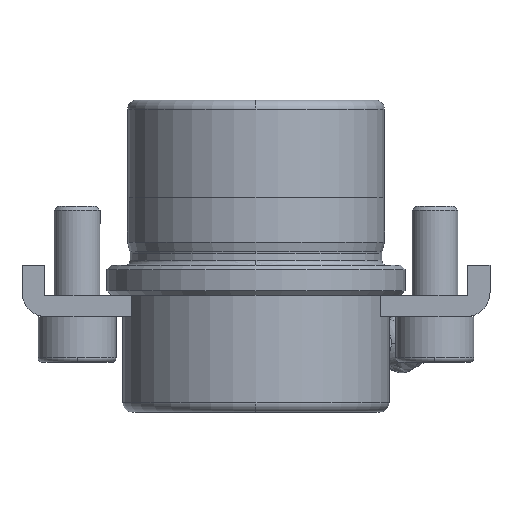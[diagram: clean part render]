
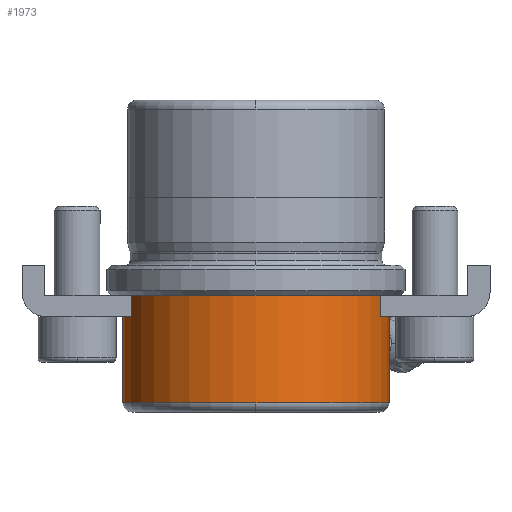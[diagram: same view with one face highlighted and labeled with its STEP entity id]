
A CAD part, front view. The second image highlights one B-rep face of the part: STEP entity #1973.
In plain terms, the highlighted cylindrical face has radius 14.5 mm (diameter 29 mm), a partial arc.
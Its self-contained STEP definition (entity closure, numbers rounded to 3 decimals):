
#401=CARTESIAN_POINT('',(0.,-14.5,-15.));
#402=VERTEX_POINT('',#401);
#410=CARTESIAN_POINT('',(-14.5,0.,-15.0));
#411=VERTEX_POINT('',#410);
#412=CARTESIAN_POINT('',(0.0,0.,-15.0));
#413=DIRECTION('',(0.0,0.0,-1.0));
#414=DIRECTION('',(1.0,0.0,0.0));
#415=AXIS2_PLACEMENT_3D('',#412,#413,#414);
#416=CIRCLE('',#415,14.5);
#417=EDGE_CURVE('',#402,#411,#416,.T.);
#434=CARTESIAN_POINT('',(14.5,0.,-15.0));
#435=VERTEX_POINT('',#434);
#436=CARTESIAN_POINT('',(14.5,0.,-3.3));
#437=VERTEX_POINT('',#436);
#438=CARTESIAN_POINT('',(14.5,0.,-15.0));
#439=DIRECTION('',(0.0,0.0,1.0));
#440=VECTOR('',#439,11.7);
#441=LINE('',#438,#440);
#442=EDGE_CURVE('',#435,#437,#441,.T.);
#452=CARTESIAN_POINT('',(-14.5,0.,-3.3));
#453=VERTEX_POINT('',#452);
#454=CARTESIAN_POINT('',(-14.5,0.,-15.0));
#455=DIRECTION('',(0.0,0.0,1.0));
#456=VECTOR('',#455,11.7);
#457=LINE('',#454,#456);
#458=EDGE_CURVE('',#411,#453,#457,.T.);
#1944=CARTESIAN_POINT('',(0.0,0.,-3.3));
#1945=DIRECTION('',(0.0,0.0,-1.0));
#1946=DIRECTION('',(1.0,0.0,0.0));
#1947=AXIS2_PLACEMENT_3D('',#1944,#1945,#1946);
#1948=CIRCLE('',#1947,14.5);
#1949=EDGE_CURVE('',#437,#453,#1948,.T.);
#1955=CARTESIAN_POINT('',(0.0,0.,-9.15));
#1956=DIRECTION('',(0.0,0.,-1.0));
#1957=DIRECTION('',(1.0,0.0,0.0));
#1958=AXIS2_PLACEMENT_3D('',#1955,#1956,#1957);
#1959=CYLINDRICAL_SURFACE('',#1958,14.5);
#1960=ORIENTED_EDGE('',*,*,#442,.T.);
#1961=ORIENTED_EDGE('',*,*,#1949,.T.);
#1962=ORIENTED_EDGE('',*,*,#458,.F.);
#1963=ORIENTED_EDGE('',*,*,#417,.F.);
#1964=CARTESIAN_POINT('',(0.0,0.,-15.0));
#1965=DIRECTION('',(0.0,0.0,-1.0));
#1966=DIRECTION('',(1.0,0.0,0.0));
#1967=AXIS2_PLACEMENT_3D('',#1964,#1965,#1966);
#1968=CIRCLE('',#1967,14.5);
#1969=EDGE_CURVE('',#435,#402,#1968,.T.);
#1970=ORIENTED_EDGE('',*,*,#1969,.F.);
#1971=EDGE_LOOP('',(#1960,#1961,#1962,#1963,#1970));
#1972=FACE_OUTER_BOUND('',#1971,.T.);
#1973=ADVANCED_FACE('',(#1972),#1959,.T.);
